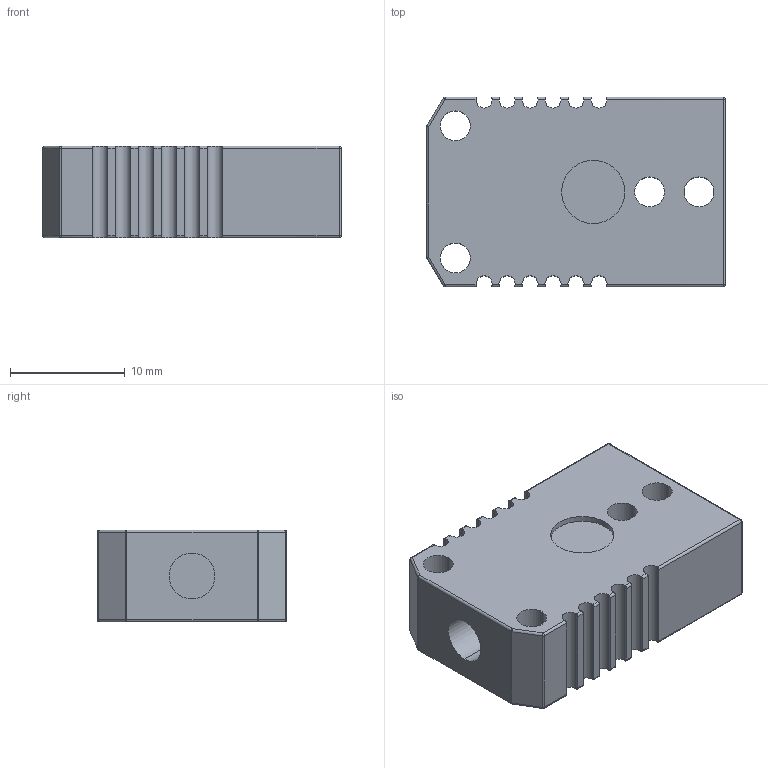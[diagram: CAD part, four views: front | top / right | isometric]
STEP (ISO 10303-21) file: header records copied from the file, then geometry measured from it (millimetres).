
FILE_DESCRIPTION (( 'STEP AP203' ), '1' );
FILE_NAME ('CMP02-□.STEP', '2022-06-16T01:45:56', ( '' ), ( '' ), 'SwSTEP 2.0', 'SolidWorks 2021', '' );
FILE_SCHEMA (( 'CONFIG_CONTROL_DESIGN' ));
Length unit declared in the file: millimetre
Products named in the file (1): CMP02-□
Bounding box: 26 x 16.5 x 8 mm (x, y, z)
Volume: 2893.7 mm3; surface area: 2177.6 mm2
Topology: 1 solids, 1 shells, 134 faces, 356 edges, 220 vertices
Faces by surface type: cylinder 90, plane 32, sphere 12
Entity records: 4333 total; most frequent: CARTESIAN_POINT 943, DIRECTION 702, ORIENTED_EDGE 696, EDGE_CURVE 348, AXIS2_PLACEMENT_3D 267, VERTEX_POINT 220, LINE 168, VECTOR 168
